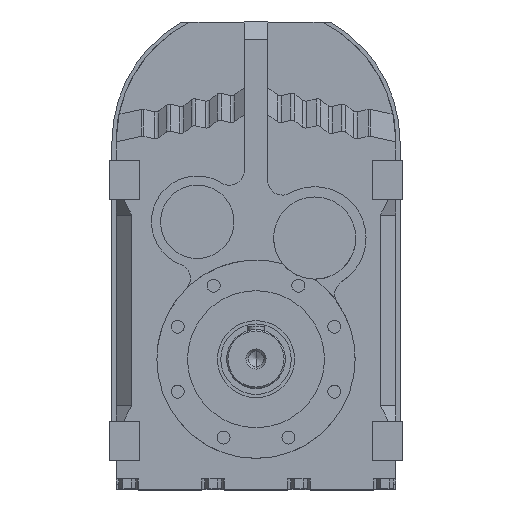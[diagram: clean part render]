
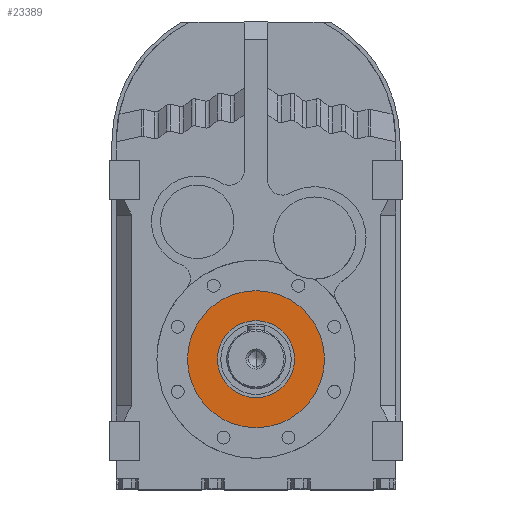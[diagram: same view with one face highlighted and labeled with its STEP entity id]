
A CAD part, top view. The second image highlights one B-rep face of the part: STEP entity #23389.
In plain terms, the highlighted planar face has unit normal (0, 0, 1).
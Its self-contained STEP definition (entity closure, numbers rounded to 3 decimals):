
#21645 = CYLINDRICAL_SURFACE('',#21646,105.);
#21646 = AXIS2_PLACEMENT_3D('',#21647,#21648,#21649);
#21647 = CARTESIAN_POINT('',(0.,-332.4,110.123));
#21648 = DIRECTION('',(0.,0.,1.));
#21649 = DIRECTION('',(1.,0.,0.));
#21671 = CYLINDRICAL_SURFACE('',#21672,105.);
#21672 = AXIS2_PLACEMENT_3D('',#21673,#21674,#21675);
#21673 = CARTESIAN_POINT('',(0.,-332.4,110.123));
#21674 = DIRECTION('',(0.,0.,1.));
#21675 = DIRECTION('',(1.,0.,0.));
#22285 = CYLINDRICAL_SURFACE('',#22286,59.);
#22286 = AXIS2_PLACEMENT_3D('',#22287,#22288,#22289);
#22287 = CARTESIAN_POINT('',(0.,-332.4,110.123));
#22288 = DIRECTION('',(0.,0.,1.));
#22289 = DIRECTION('',(1.,0.,0.));
#22315 = CYLINDRICAL_SURFACE('',#22316,59.);
#22316 = AXIS2_PLACEMENT_3D('',#22317,#22318,#22319);
#22317 = CARTESIAN_POINT('',(0.,-332.4,110.123));
#22318 = DIRECTION('',(0.,0.,1.));
#22319 = DIRECTION('',(1.,0.,0.));
#22570 = EDGE_CURVE('',#22571,#22573,#22575,.T.);
#22571 = VERTEX_POINT('',#22572);
#22572 = CARTESIAN_POINT('',(-105.,-332.4,308.));
#22573 = VERTEX_POINT('',#22574);
#22574 = CARTESIAN_POINT('',(105.,-332.4,308.));
#22575 = SURFACE_CURVE('',#22576,(#22581,#22587),.PCURVE_S1.);
#22576 = CIRCLE('',#22577,105.);
#22577 = AXIS2_PLACEMENT_3D('',#22578,#22579,#22580);
#22578 = CARTESIAN_POINT('',(0.,-332.4,308.));
#22579 = DIRECTION('',(0.,0.,1.));
#22580 = DIRECTION('',(1.,0.,0.));
#22581 = PCURVE('',#21671,#22582);
#22582 = DEFINITIONAL_REPRESENTATION('',(#22583),#22586);
#22583 = B_SPLINE_CURVE_WITH_KNOTS('',1,(#22584,#22585),.UNSPECIFIED.,
  .F.,.F.,(2,2),(3.142,6.283),.PIECEWISE_BEZIER_KNOTS.);
#22584 = CARTESIAN_POINT('',(3.142,197.877));
#22585 = CARTESIAN_POINT('',(6.283,197.877));
#22586 = ( GEOMETRIC_REPRESENTATION_CONTEXT(2) 
PARAMETRIC_REPRESENTATION_CONTEXT() REPRESENTATION_CONTEXT('2D SPACE',''
  ) );
#22587 = PCURVE('',#22588,#22593);
#22588 = PLANE('',#22589);
#22589 = AXIS2_PLACEMENT_3D('',#22590,#22591,#22592);
#22590 = CARTESIAN_POINT('',(0.,-227.4,308.));
#22591 = DIRECTION('',(0.,0.,1.));
#22592 = DIRECTION('',(1.,0.,0.));
#22593 = DEFINITIONAL_REPRESENTATION('',(#22594),#22598);
#22594 = CIRCLE('',#22595,105.);
#22595 = AXIS2_PLACEMENT_2D('',#22596,#22597);
#22596 = CARTESIAN_POINT('',(0.,-105.));
#22597 = DIRECTION('',(1.,0.));
#22598 = ( GEOMETRIC_REPRESENTATION_CONTEXT(2) 
PARAMETRIC_REPRESENTATION_CONTEXT() REPRESENTATION_CONTEXT('2D SPACE',''
  ) );
#22645 = EDGE_CURVE('',#22573,#22571,#22646,.T.);
#22646 = SURFACE_CURVE('',#22647,(#22652,#22658),.PCURVE_S1.);
#22647 = CIRCLE('',#22648,105.);
#22648 = AXIS2_PLACEMENT_3D('',#22649,#22650,#22651);
#22649 = CARTESIAN_POINT('',(0.,-332.4,308.));
#22650 = DIRECTION('',(0.,0.,1.));
#22651 = DIRECTION('',(1.,0.,0.));
#22652 = PCURVE('',#21645,#22653);
#22653 = DEFINITIONAL_REPRESENTATION('',(#22654),#22657);
#22654 = B_SPLINE_CURVE_WITH_KNOTS('',1,(#22655,#22656),.UNSPECIFIED.,
  .F.,.F.,(2,2),(0.,3.142),.PIECEWISE_BEZIER_KNOTS.);
#22655 = CARTESIAN_POINT('',(0.,197.877));
#22656 = CARTESIAN_POINT('',(3.142,197.877));
#22657 = ( GEOMETRIC_REPRESENTATION_CONTEXT(2) 
PARAMETRIC_REPRESENTATION_CONTEXT() REPRESENTATION_CONTEXT('2D SPACE',''
  ) );
#22658 = PCURVE('',#22588,#22659);
#22659 = DEFINITIONAL_REPRESENTATION('',(#22660),#22664);
#22660 = CIRCLE('',#22661,105.);
#22661 = AXIS2_PLACEMENT_2D('',#22662,#22663);
#22662 = CARTESIAN_POINT('',(0.,-105.));
#22663 = DIRECTION('',(1.,0.));
#22664 = ( GEOMETRIC_REPRESENTATION_CONTEXT(2) 
PARAMETRIC_REPRESENTATION_CONTEXT() REPRESENTATION_CONTEXT('2D SPACE',''
  ) );
#23286 = VERTEX_POINT('',#23287);
#23287 = CARTESIAN_POINT('',(59.,-332.4,308.));
#23306 = EDGE_CURVE('',#23307,#23286,#23309,.T.);
#23307 = VERTEX_POINT('',#23308);
#23308 = CARTESIAN_POINT('',(-59.,-332.4,308.));
#23309 = SURFACE_CURVE('',#23310,(#23315,#23321),.PCURVE_S1.);
#23310 = CIRCLE('',#23311,59.);
#23311 = AXIS2_PLACEMENT_3D('',#23312,#23313,#23314);
#23312 = CARTESIAN_POINT('',(0.,-332.4,308.));
#23313 = DIRECTION('',(0.,0.,1.));
#23314 = DIRECTION('',(1.,0.,0.));
#23315 = PCURVE('',#22315,#23316);
#23316 = DEFINITIONAL_REPRESENTATION('',(#23317),#23320);
#23317 = B_SPLINE_CURVE_WITH_KNOTS('',1,(#23318,#23319),.UNSPECIFIED.,
  .F.,.F.,(2,2),(3.142,6.283),.PIECEWISE_BEZIER_KNOTS.);
#23318 = CARTESIAN_POINT('',(3.142,197.877));
#23319 = CARTESIAN_POINT('',(6.283,197.877));
#23320 = ( GEOMETRIC_REPRESENTATION_CONTEXT(2) 
PARAMETRIC_REPRESENTATION_CONTEXT() REPRESENTATION_CONTEXT('2D SPACE',''
  ) );
#23321 = PCURVE('',#22588,#23322);
#23322 = DEFINITIONAL_REPRESENTATION('',(#23323),#23327);
#23323 = CIRCLE('',#23324,59.);
#23324 = AXIS2_PLACEMENT_2D('',#23325,#23326);
#23325 = CARTESIAN_POINT('',(0.,-105.));
#23326 = DIRECTION('',(1.,0.));
#23327 = ( GEOMETRIC_REPRESENTATION_CONTEXT(2) 
PARAMETRIC_REPRESENTATION_CONTEXT() REPRESENTATION_CONTEXT('2D SPACE',''
  ) );
#23352 = EDGE_CURVE('',#23286,#23307,#23353,.T.);
#23353 = SURFACE_CURVE('',#23354,(#23359,#23365),.PCURVE_S1.);
#23354 = CIRCLE('',#23355,59.);
#23355 = AXIS2_PLACEMENT_3D('',#23356,#23357,#23358);
#23356 = CARTESIAN_POINT('',(0.,-332.4,308.));
#23357 = DIRECTION('',(0.,0.,1.));
#23358 = DIRECTION('',(1.,0.,0.));
#23359 = PCURVE('',#22285,#23360);
#23360 = DEFINITIONAL_REPRESENTATION('',(#23361),#23364);
#23361 = B_SPLINE_CURVE_WITH_KNOTS('',1,(#23362,#23363),.UNSPECIFIED.,
  .F.,.F.,(2,2),(0.,3.142),.PIECEWISE_BEZIER_KNOTS.);
#23362 = CARTESIAN_POINT('',(0.,197.877));
#23363 = CARTESIAN_POINT('',(3.142,197.877));
#23364 = ( GEOMETRIC_REPRESENTATION_CONTEXT(2) 
PARAMETRIC_REPRESENTATION_CONTEXT() REPRESENTATION_CONTEXT('2D SPACE',''
  ) );
#23365 = PCURVE('',#22588,#23366);
#23366 = DEFINITIONAL_REPRESENTATION('',(#23367),#23371);
#23367 = CIRCLE('',#23368,59.);
#23368 = AXIS2_PLACEMENT_2D('',#23369,#23370);
#23369 = CARTESIAN_POINT('',(0.,-105.));
#23370 = DIRECTION('',(1.,0.));
#23371 = ( GEOMETRIC_REPRESENTATION_CONTEXT(2) 
PARAMETRIC_REPRESENTATION_CONTEXT() REPRESENTATION_CONTEXT('2D SPACE',''
  ) );
#23389 = ADVANCED_FACE('',(#23390,#23394),#22588,.T.);
#23390 = FACE_BOUND('',#23391,.T.);
#23391 = EDGE_LOOP('',(#23392,#23393));
#23392 = ORIENTED_EDGE('',*,*,#22645,.T.);
#23393 = ORIENTED_EDGE('',*,*,#22570,.T.);
#23394 = FACE_BOUND('',#23395,.T.);
#23395 = EDGE_LOOP('',(#23396,#23397));
#23396 = ORIENTED_EDGE('',*,*,#23352,.F.);
#23397 = ORIENTED_EDGE('',*,*,#23306,.F.);
